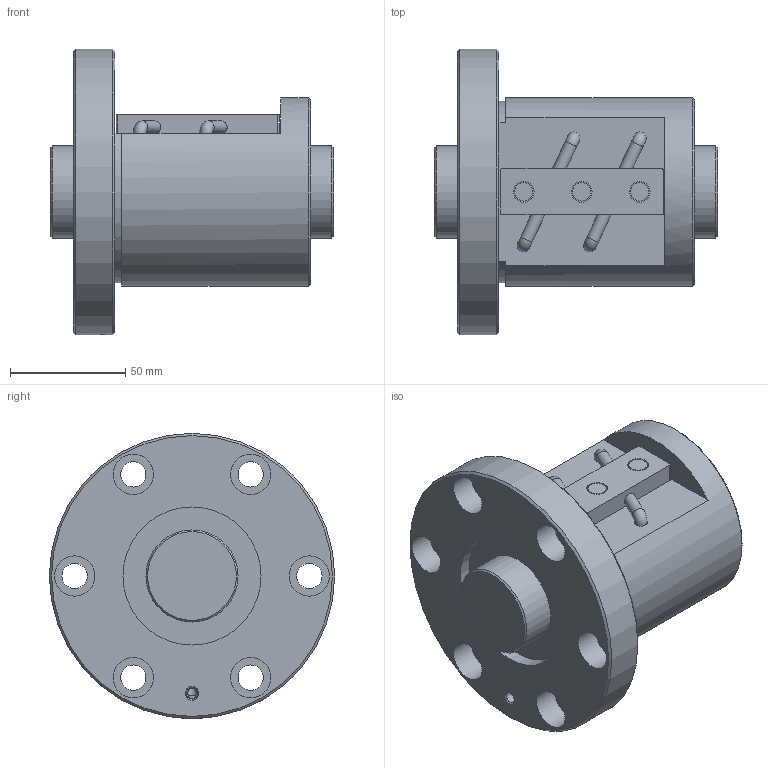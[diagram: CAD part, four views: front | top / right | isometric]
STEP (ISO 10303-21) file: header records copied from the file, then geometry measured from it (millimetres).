
FILE_DESCRIPTION(/* description */ ('STEP AP203'),/* implementation_level */ '2;1');
FILE_NAME(/* name */ 'BNF4010V-5RRG1+123LC0_000_rev',/* time_stamp */ '2024-08-06T08:40:55+02:00',/* author */ ('License CC BY-ND 4.0'),/* organization */ ('CADENAS'),/* preprocessor_version */ 'ST-DEVELOPER v19.3',/* originating_system */ 'PARTsolutions',/* authorisation */ ' ');
FILE_SCHEMA (('CONFIG_CONTROL_DESIGN'));
Length unit declared in the file: millimetre
Products named in the file (3): BNF4010V-5RRG1+123LC0_000_rev; BNF 4010-5RR000 Shaft; BNF 4010-5RR Nut
Assembly tree (2 placements, depth 2):
  BNF4010V-5RRG1+123LC0_000_rev
    BNF 4010-5RR000 Shaft
    BNF 4010-5RR Nut
Bounding box: 123 x 124 x 124 mm (x, y, z)
Volume: 615103.8 mm3; surface area: 90269.8 mm2
Topology: 2 solids, 2 shells, 77 faces, 168 edges, 110 vertices
Faces by surface type: cylinder 37, plane 29, cone 7, torus 4
Full cylindrical faces by diameter (mm): 4.5 x2, 4.917 x1, 5.465 x4, 8 x3, 9 x3, 11 x6, 17.5 x6, 40 x2, 60 x2, 82 x1, 124 x1
Entity records: 1943 total; most frequent: DIRECTION 348, CARTESIAN_POINT 324, ORIENTED_EDGE 220, AXIS2_PLACEMENT_3D 162, EDGE_LOOP 160, FACE_BOUND 160, EDGE_CURVE 110, VERTEX_POINT 96
